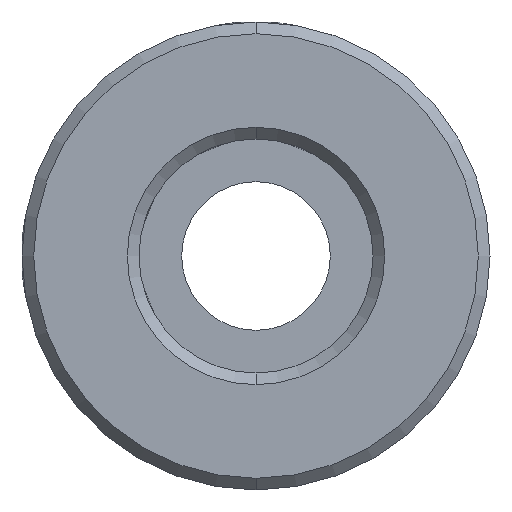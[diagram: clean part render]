
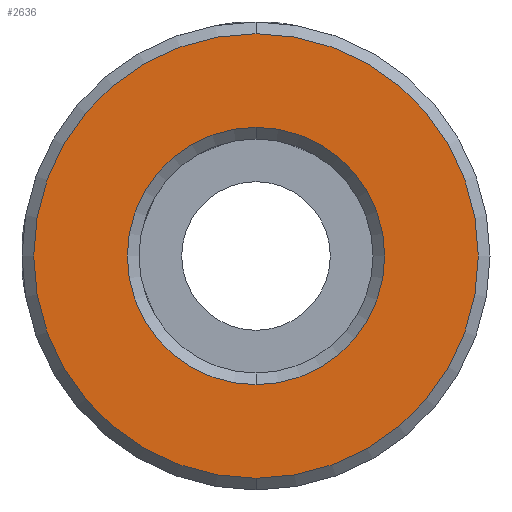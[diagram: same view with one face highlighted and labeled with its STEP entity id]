
A CAD part, front view. The second image highlights one B-rep face of the part: STEP entity #2636.
In plain terms, the highlighted planar face has unit normal (0, -1, 0).
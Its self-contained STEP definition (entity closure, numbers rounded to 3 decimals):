
#40 = CARTESIAN_POINT ( 'NONE',  ( -10.188, -0.277, -9.454 ) ) ;
#163 = CIRCLE ( 'NONE', #2352, 9.5 ) ;
#193 = DIRECTION ( 'NONE',  ( 0., 0., 1. ) ) ;
#224 = CARTESIAN_POINT ( 'NONE',  ( -10.188, -0.277, 0.046 ) ) ;
#314 = EDGE_LOOP ( 'NONE', ( #1185, #2503 ) ) ;
#481 = EDGE_LOOP ( 'NONE', ( #538, #2131 ) ) ;
#538 = ORIENTED_EDGE ( 'NONE', *, *, #806, .T. ) ;
#806 = EDGE_CURVE ( 'NONE', #3445, #1386, #163, .T. ) ;
#942 = CARTESIAN_POINT ( 'NONE',  ( -10.188, -0.277, 0.046 ) ) ;
#943 = CARTESIAN_POINT ( 'NONE',  ( -10.188, -0.277, 0.046 ) ) ;
#1124 = DIRECTION ( 'NONE',  ( 0., 0., 1. ) ) ;
#1142 = EDGE_CURVE ( 'NONE', #1386, #3445, #2904, .T. ) ;
#1185 = ORIENTED_EDGE ( 'NONE', *, *, #2100, .T. ) ;
#1291 = DIRECTION ( 'NONE',  ( 0., -1., 0. ) ) ;
#1332 = CARTESIAN_POINT ( 'NONE',  ( -10.188, -0.277, -5.454 ) ) ;
#1386 = VERTEX_POINT ( 'NONE', #40 ) ;
#1454 = CARTESIAN_POINT ( 'NONE',  ( -10.188, -0.277, 0.046 ) ) ;
#1841 = CARTESIAN_POINT ( 'NONE',  ( -10.188, -0.277, 5.546 ) ) ;
#1902 = FACE_BOUND ( 'NONE', #314, .T. ) ;
#1978 = DIRECTION ( 'NONE',  ( 0., -1., 0. ) ) ;
#2073 = CIRCLE ( 'NONE', #3261, 5.5 ) ;
#2100 = EDGE_CURVE ( 'NONE', #2202, #2825, #2419, .T. ) ;
#2131 = ORIENTED_EDGE ( 'NONE', *, *, #1142, .T. ) ;
#2202 = VERTEX_POINT ( 'NONE', #1332 ) ;
#2261 = DIRECTION ( 'NONE',  ( 0., 0., 1. ) ) ;
#2330 = CARTESIAN_POINT ( 'NONE',  ( -10.188, -0.277, 9.546 ) ) ;
#2349 = DIRECTION ( 'NONE',  ( 0., 1., 0. ) ) ;
#2352 = AXIS2_PLACEMENT_3D ( 'NONE', #1454, #1978, #1124 ) ;
#2419 = CIRCLE ( 'NONE', #3079, 5.5 ) ;
#2436 = FACE_OUTER_BOUND ( 'NONE', #481, .T. ) ;
#2442 = DIRECTION ( 'NONE',  ( 0., 0., 1. ) ) ;
#2490 = PLANE ( 'NONE',  #3085 ) ;
#2503 = ORIENTED_EDGE ( 'NONE', *, *, #3087, .T. ) ;
#2529 = AXIS2_PLACEMENT_3D ( 'NONE', #2728, #1291, #2442 ) ;
#2636 = ADVANCED_FACE ( 'NONE', ( #2436, #1902 ), #2490, .F. ) ;
#2644 = DIRECTION ( 'NONE',  ( 0., 0., 1. ) ) ;
#2728 = CARTESIAN_POINT ( 'NONE',  ( -10.188, -0.277, 0.046 ) ) ;
#2825 = VERTEX_POINT ( 'NONE', #1841 ) ;
#2860 = DIRECTION ( 'NONE',  ( 0., 1., 0. ) ) ;
#2904 = CIRCLE ( 'NONE', #2529, 9.5 ) ;
#3079 = AXIS2_PLACEMENT_3D ( 'NONE', #942, #2860, #2644 ) ;
#3085 = AXIS2_PLACEMENT_3D ( 'NONE', #224, #3280, #193 ) ;
#3087 = EDGE_CURVE ( 'NONE', #2825, #2202, #2073, .T. ) ;
#3261 = AXIS2_PLACEMENT_3D ( 'NONE', #943, #2349, #2261 ) ;
#3280 = DIRECTION ( 'NONE',  ( 0., 1., 0. ) ) ;
#3445 = VERTEX_POINT ( 'NONE', #2330 ) ;
